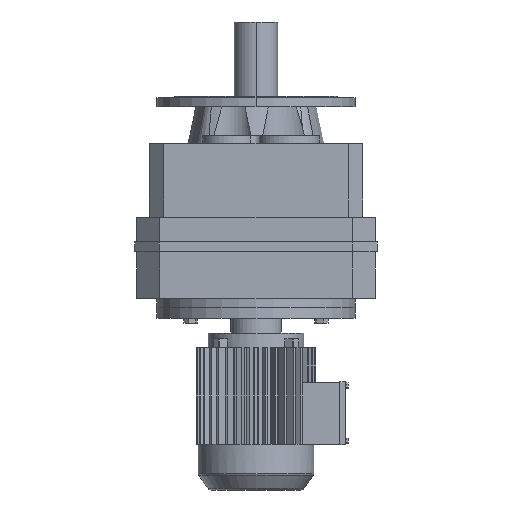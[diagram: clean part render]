
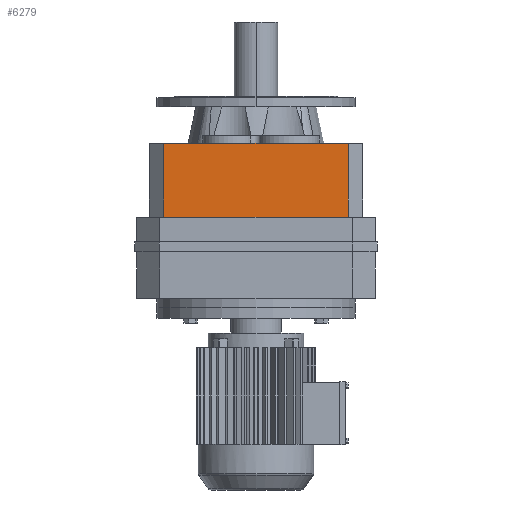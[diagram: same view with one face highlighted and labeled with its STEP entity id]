
A CAD part, front view. The second image highlights one B-rep face of the part: STEP entity #6279.
In plain terms, the highlighted planar face has unit normal (0, -1, 0).
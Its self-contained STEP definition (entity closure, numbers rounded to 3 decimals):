
#785 = PLANE('',#786);
#786 = AXIS2_PLACEMENT_3D('',#787,#788,#789);
#787 = CARTESIAN_POINT('',(288.86,-230.726,249.838));
#788 = DIRECTION('',(0.,0.,1.));
#789 = DIRECTION('',(1.,0.,0.));
#840 = PLANE('',#841);
#841 = AXIS2_PLACEMENT_3D('',#842,#843,#844);
#842 = CARTESIAN_POINT('',(-536.,-25.1,454.25));
#843 = DIRECTION('',(0.,0.,1.));
#844 = DIRECTION('',(1.,0.,0.));
#1911 = VERTEX_POINT('',#1912);
#1912 = CARTESIAN_POINT('',(254.6,-297.5,249.838));
#1926 = PLANE('',#1927);
#1927 = AXIS2_PLACEMENT_3D('',#1928,#1929,#1930);
#1928 = CARTESIAN_POINT('',(254.6,-297.5,249.838));
#1929 = DIRECTION('',(-0.707,0.707,0.));
#1930 = DIRECTION('',(-0.707,-0.707,0.));
#1938 = EDGE_CURVE('',#1911,#1939,#1941,.T.);
#1939 = VERTEX_POINT('',#1940);
#1940 = CARTESIAN_POINT('',(-254.6,-297.5,249.838));
#1941 = SURFACE_CURVE('',#1942,(#1946,#1953),.PCURVE_S1.);
#1942 = LINE('',#1943,#1944);
#1943 = CARTESIAN_POINT('',(-254.6,-297.5,249.838));
#1944 = VECTOR('',#1945,1.);
#1945 = DIRECTION('',(-1.,0.,0.));
#1946 = PCURVE('',#785,#1947);
#1947 = DEFINITIONAL_REPRESENTATION('',(#1948),#1952);
#1948 = LINE('',#1949,#1950);
#1949 = CARTESIAN_POINT('',(-543.46,-66.774));
#1950 = VECTOR('',#1951,1.);
#1951 = DIRECTION('',(-1.,0.));
#1952 = ( GEOMETRIC_REPRESENTATION_CONTEXT(2) 
PARAMETRIC_REPRESENTATION_CONTEXT() REPRESENTATION_CONTEXT('2D SPACE',''
  ) );
#1953 = PCURVE('',#1954,#1959);
#1954 = PLANE('',#1955);
#1955 = AXIS2_PLACEMENT_3D('',#1956,#1957,#1958);
#1956 = CARTESIAN_POINT('',(-254.6,-297.5,249.838));
#1957 = DIRECTION('',(0.,1.,0.));
#1958 = DIRECTION('',(0.,0.,1.));
#1959 = DEFINITIONAL_REPRESENTATION('',(#1960),#1964);
#1960 = LINE('',#1961,#1962);
#1961 = CARTESIAN_POINT('',(0.,0.));
#1962 = VECTOR('',#1963,1.);
#1963 = DIRECTION('',(0.,-1.));
#1964 = ( GEOMETRIC_REPRESENTATION_CONTEXT(2) 
PARAMETRIC_REPRESENTATION_CONTEXT() REPRESENTATION_CONTEXT('2D SPACE',''
  ) );
#1982 = PLANE('',#1983);
#1983 = AXIS2_PLACEMENT_3D('',#1984,#1985,#1986);
#1984 = CARTESIAN_POINT('',(-254.6,-297.5,249.838));
#1985 = DIRECTION('',(0.707,0.707,0.));
#1986 = DIRECTION('',(-0.707,0.707,0.));
#4305 = VERTEX_POINT('',#4306);
#4306 = CARTESIAN_POINT('',(-254.6,-297.5,454.25));
#4327 = EDGE_CURVE('',#4328,#4305,#4330,.T.);
#4328 = VERTEX_POINT('',#4329);
#4329 = CARTESIAN_POINT('',(254.6,-297.5,454.25));
#4330 = SURFACE_CURVE('',#4331,(#4335,#4342),.PCURVE_S1.);
#4331 = LINE('',#4332,#4333);
#4332 = CARTESIAN_POINT('',(-254.6,-297.5,454.25));
#4333 = VECTOR('',#4334,1.);
#4334 = DIRECTION('',(-1.,0.,0.));
#4335 = PCURVE('',#840,#4336);
#4336 = DEFINITIONAL_REPRESENTATION('',(#4337),#4341);
#4337 = LINE('',#4338,#4339);
#4338 = CARTESIAN_POINT('',(281.4,-272.4));
#4339 = VECTOR('',#4340,1.);
#4340 = DIRECTION('',(-1.,0.));
#4341 = ( GEOMETRIC_REPRESENTATION_CONTEXT(2) 
PARAMETRIC_REPRESENTATION_CONTEXT() REPRESENTATION_CONTEXT('2D SPACE',''
  ) );
#4342 = PCURVE('',#1954,#4343);
#4343 = DEFINITIONAL_REPRESENTATION('',(#4344),#4348);
#4344 = LINE('',#4345,#4346);
#4345 = CARTESIAN_POINT('',(204.413,0.));
#4346 = VECTOR('',#4347,1.);
#4347 = DIRECTION('',(0.,-1.));
#4348 = ( GEOMETRIC_REPRESENTATION_CONTEXT(2) 
PARAMETRIC_REPRESENTATION_CONTEXT() REPRESENTATION_CONTEXT('2D SPACE',''
  ) );
#6153 = EDGE_CURVE('',#1939,#4305,#6154,.T.);
#6154 = SURFACE_CURVE('',#6155,(#6159,#6166),.PCURVE_S1.);
#6155 = LINE('',#6156,#6157);
#6156 = CARTESIAN_POINT('',(-254.6,-297.5,249.838));
#6157 = VECTOR('',#6158,1.);
#6158 = DIRECTION('',(0.,0.,1.));
#6159 = PCURVE('',#1982,#6160);
#6160 = DEFINITIONAL_REPRESENTATION('',(#6161),#6165);
#6161 = LINE('',#6162,#6163);
#6162 = CARTESIAN_POINT('',(0.,0.));
#6163 = VECTOR('',#6164,1.);
#6164 = DIRECTION('',(0.,1.));
#6165 = ( GEOMETRIC_REPRESENTATION_CONTEXT(2) 
PARAMETRIC_REPRESENTATION_CONTEXT() REPRESENTATION_CONTEXT('2D SPACE',''
  ) );
#6166 = PCURVE('',#1954,#6167);
#6167 = DEFINITIONAL_REPRESENTATION('',(#6168),#6172);
#6168 = LINE('',#6169,#6170);
#6169 = CARTESIAN_POINT('',(0.,0.));
#6170 = VECTOR('',#6171,1.);
#6171 = DIRECTION('',(1.,0.));
#6172 = ( GEOMETRIC_REPRESENTATION_CONTEXT(2) 
PARAMETRIC_REPRESENTATION_CONTEXT() REPRESENTATION_CONTEXT('2D SPACE',''
  ) );
#6279 = ADVANCED_FACE('',(#6280),#1954,.F.);
#6280 = FACE_BOUND('',#6281,.T.);
#6281 = EDGE_LOOP('',(#6282,#6283,#6284,#6285));
#6282 = ORIENTED_EDGE('',*,*,#4327,.T.);
#6283 = ORIENTED_EDGE('',*,*,#6153,.F.);
#6284 = ORIENTED_EDGE('',*,*,#1938,.F.);
#6285 = ORIENTED_EDGE('',*,*,#6286,.T.);
#6286 = EDGE_CURVE('',#1911,#4328,#6287,.T.);
#6287 = SURFACE_CURVE('',#6288,(#6292,#6299),.PCURVE_S1.);
#6288 = LINE('',#6289,#6290);
#6289 = CARTESIAN_POINT('',(254.6,-297.5,249.838));
#6290 = VECTOR('',#6291,1.);
#6291 = DIRECTION('',(0.,0.,1.));
#6292 = PCURVE('',#1954,#6293);
#6293 = DEFINITIONAL_REPRESENTATION('',(#6294),#6298);
#6294 = LINE('',#6295,#6296);
#6295 = CARTESIAN_POINT('',(0.,509.2));
#6296 = VECTOR('',#6297,1.);
#6297 = DIRECTION('',(1.,0.));
#6298 = ( GEOMETRIC_REPRESENTATION_CONTEXT(2) 
PARAMETRIC_REPRESENTATION_CONTEXT() REPRESENTATION_CONTEXT('2D SPACE',''
  ) );
#6299 = PCURVE('',#1926,#6300);
#6300 = DEFINITIONAL_REPRESENTATION('',(#6301),#6305);
#6301 = LINE('',#6302,#6303);
#6302 = CARTESIAN_POINT('',(0.,0.));
#6303 = VECTOR('',#6304,1.);
#6304 = DIRECTION('',(0.,1.));
#6305 = ( GEOMETRIC_REPRESENTATION_CONTEXT(2) 
PARAMETRIC_REPRESENTATION_CONTEXT() REPRESENTATION_CONTEXT('2D SPACE',''
  ) );
